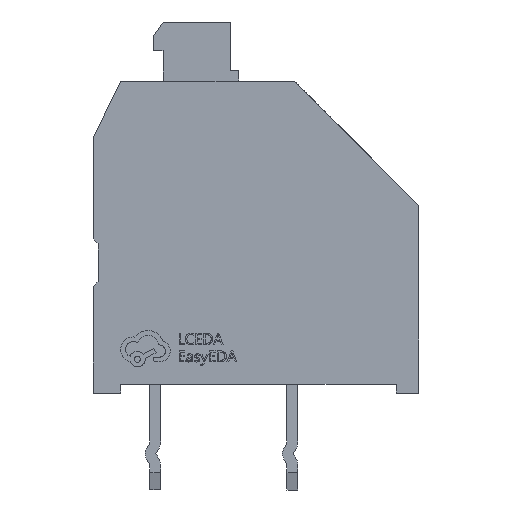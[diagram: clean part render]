
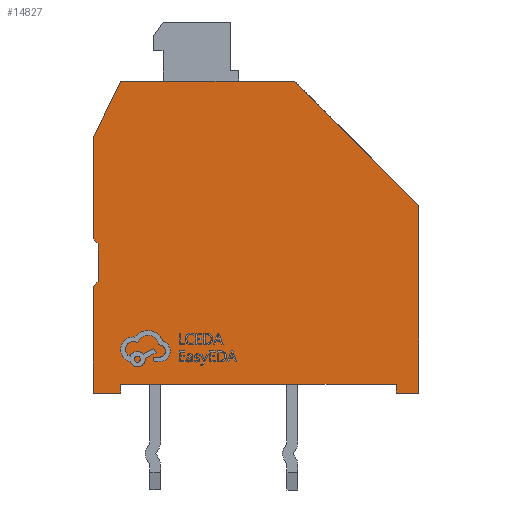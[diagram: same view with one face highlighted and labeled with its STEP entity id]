
A CAD part, left-side view. The second image highlights one B-rep face of the part: STEP entity #14827.
In plain terms, the highlighted planar face has unit normal (-1, 0, 0).
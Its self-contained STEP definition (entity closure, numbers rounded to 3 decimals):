
#696 = ORIENTED_EDGE ( 'NONE', *, *, #37958, .F. ) ;
#765 = CARTESIAN_POINT ( 'NONE',  ( -24.014, 1.918, 0. ) ) ;
#1316 = VECTOR ( 'NONE', #35596, 1000. ) ;
#2245 = EDGE_CURVE ( 'NONE', #42690, #34831, #41422, .T. ) ;
#2260 = VERTEX_POINT ( 'NONE', #5443 ) ;
#2502 = VERTEX_POINT ( 'NONE', #34626 ) ;
#3571 = CARTESIAN_POINT ( 'NONE',  ( -24.014, 6.549, 1.92 ) ) ;
#4002 = LINE ( 'NONE', #3571, #28269 ) ;
#4122 = VECTOR ( 'NONE', #31254, 1000. ) ;
#5443 = CARTESIAN_POINT ( 'NONE',  ( -24.014, 6.366, 0.332 ) ) ;
#5858 = CARTESIAN_POINT ( 'NONE',  ( -24.014, 5.533, -3.813 ) ) ;
#6054 = LINE ( 'NONE', #35102, #38085 ) ;
#6401 = VERTEX_POINT ( 'NONE', #22345 ) ;
#6672 = DIRECTION ( 'NONE',  ( 0., 1., 0. ) ) ;
#7127 = LINE ( 'NONE', #33513, #31807 ) ;
#7606 = ORIENTED_EDGE ( 'NONE', *, *, #2245, .F. ) ;
#8007 = DIRECTION ( 'NONE',  ( 0., 0., -1. ) ) ;
#8103 = ORIENTED_EDGE ( 'NONE', *, *, #26441, .F. ) ;
#8170 = EDGE_CURVE ( 'NONE', #17045, #31608, #40246, .T. ) ;
#8296 = VECTOR ( 'NONE', #39312, 1000. ) ;
#9031 = VERTEX_POINT ( 'NONE', #37182 ) ;
#9635 = LINE ( 'NONE', #26834, #24236 ) ;
#10945 = VECTOR ( 'NONE', #6672, 1000. ) ;
#11427 = ORIENTED_EDGE ( 'NONE', *, *, #27126, .F. ) ;
#11950 = VERTEX_POINT ( 'NONE', #24344 ) ;
#13377 = VECTOR ( 'NONE', #16511, 1000. ) ;
#14042 = CARTESIAN_POINT ( 'NONE',  ( -24.014, 5.533, 7.787 ) ) ;
#14062 = EDGE_CURVE ( 'NONE', #11950, #2260, #7127, .T. ) ;
#14068 = CARTESIAN_POINT ( 'NONE',  ( -24.014, -4.711, -3.813 ) ) ;
#14284 = EDGE_CURVE ( 'NONE', #33366, #11950, #9635, .T. ) ;
#14827 = ADVANCED_FACE ( 'NONE', ( #42898 ), #21942, .T. ) ;
#14854 = LINE ( 'NONE', #21292, #1316 ) ;
#15793 = CARTESIAN_POINT ( 'NONE',  ( -24.014, 5.533, -3.48 ) ) ;
#15834 = CARTESIAN_POINT ( 'NONE',  ( -24.014, 6.366, 0.332 ) ) ;
#15979 = EDGE_CURVE ( 'NONE', #34831, #42165, #4002, .T. ) ;
#16093 = ORIENTED_EDGE ( 'NONE', *, *, #46952, .F. ) ;
#16138 = VERTEX_POINT ( 'NONE', #5858 ) ;
#16511 = DIRECTION ( 'NONE',  ( 0., -0.434, 0.901 ) ) ;
#16994 = DIRECTION ( 'NONE',  ( 0., 1., 0. ) ) ;
#17045 = VERTEX_POINT ( 'NONE', #18451 ) ;
#17519 = LINE ( 'NONE', #18240, #40758 ) ;
#18041 = DIRECTION ( 'NONE',  ( 0., 0., 1. ) ) ;
#18240 = CARTESIAN_POINT ( 'NONE',  ( -24.014, -5.551, 3.162 ) ) ;
#18451 = CARTESIAN_POINT ( 'NONE',  ( -24.014, -4.711, -3.48 ) ) ;
#19417 = CARTESIAN_POINT ( 'NONE',  ( -24.014, 6.549, 5.677 ) ) ;
#19824 = VECTOR ( 'NONE', #43927, 1000. ) ;
#20848 = VECTOR ( 'NONE', #45156, 1000. ) ;
#21292 = CARTESIAN_POINT ( 'NONE',  ( -24.014, -0.926, 7.787 ) ) ;
#21581 = CARTESIAN_POINT ( 'NONE',  ( -24.014, -5.551, 3.162 ) ) ;
#21942 = PLANE ( 'NONE',  #37986 ) ;
#22345 = CARTESIAN_POINT ( 'NONE',  ( -24.014, -5.551, -3.813 ) ) ;
#22689 = EDGE_CURVE ( 'NONE', #32194, #6401, #17519, .T. ) ;
#23304 = CARTESIAN_POINT ( 'NONE',  ( -24.014, 5.533, -3.48 ) ) ;
#23310 = DIRECTION ( 'NONE',  ( 0., 0., 1. ) ) ;
#23503 = ORIENTED_EDGE ( 'NONE', *, *, #15979, .F. ) ;
#23693 = LINE ( 'NONE', #15834, #4122 ) ;
#24035 = DIRECTION ( 'NONE',  ( 0., 0.707, 0.707 ) ) ;
#24236 = VECTOR ( 'NONE', #23310, 1000. ) ;
#24344 = CARTESIAN_POINT ( 'NONE',  ( -24.014, 6.549, 0.15 ) ) ;
#26225 = DIRECTION ( 'NONE',  ( 0., 0., -1. ) ) ;
#26441 = EDGE_CURVE ( 'NONE', #6401, #34936, #45535, .T. ) ;
#26536 = LINE ( 'NONE', #19417, #13377 ) ;
#26708 = CARTESIAN_POINT ( 'NONE',  ( -24.014, 6.366, 1.737 ) ) ;
#26834 = CARTESIAN_POINT ( 'NONE',  ( -24.014, 6.549, -3.813 ) ) ;
#27097 = CARTESIAN_POINT ( 'NONE',  ( -24.014, 6.366, 1.737 ) ) ;
#27126 = EDGE_CURVE ( 'NONE', #42165, #9031, #26536, .T. ) ;
#28269 = VECTOR ( 'NONE', #18041, 1000. ) ;
#30787 = ORIENTED_EDGE ( 'NONE', *, *, #33470, .F. ) ;
#30813 = EDGE_CURVE ( 'NONE', #34936, #17045, #6054, .T. ) ;
#30909 = ORIENTED_EDGE ( 'NONE', *, *, #30813, .F. ) ;
#31254 = DIRECTION ( 'NONE',  ( 0., 0., 1. ) ) ;
#31608 = VERTEX_POINT ( 'NONE', #15793 ) ;
#31807 = VECTOR ( 'NONE', #32798, 1000. ) ;
#32194 = VERTEX_POINT ( 'NONE', #21581 ) ;
#32594 = LINE ( 'NONE', #14042, #8296 ) ;
#32798 = DIRECTION ( 'NONE',  ( 0., -0.707, 0.707 ) ) ;
#33366 = VERTEX_POINT ( 'NONE', #39212 ) ;
#33470 = EDGE_CURVE ( 'NONE', #16138, #33366, #46770, .T. ) ;
#33513 = CARTESIAN_POINT ( 'NONE',  ( -24.014, 6.549, 0.15 ) ) ;
#33927 = ORIENTED_EDGE ( 'NONE', *, *, #22689, .F. ) ;
#34442 = VECTOR ( 'NONE', #24035, 1000. ) ;
#34626 = CARTESIAN_POINT ( 'NONE',  ( -24.014, -0.926, 7.787 ) ) ;
#34831 = VERTEX_POINT ( 'NONE', #45712 ) ;
#34851 = CARTESIAN_POINT ( 'NONE',  ( -24.014, -5.551, -3.813 ) ) ;
#34936 = VERTEX_POINT ( 'NONE', #14068 ) ;
#35102 = CARTESIAN_POINT ( 'NONE',  ( -24.014, -4.711, -3.813 ) ) ;
#35596 = DIRECTION ( 'NONE',  ( 0., -0.707, -0.707 ) ) ;
#36151 = ORIENTED_EDGE ( 'NONE', *, *, #14062, .F. ) ;
#36635 = ORIENTED_EDGE ( 'NONE', *, *, #40314, .F. ) ;
#37182 = CARTESIAN_POINT ( 'NONE',  ( -24.014, 5.533, 7.787 ) ) ;
#37958 = EDGE_CURVE ( 'NONE', #2502, #32194, #14854, .T. ) ;
#37986 = AXIS2_PLACEMENT_3D ( 'NONE', #765, #44749, #26225 ) ;
#38085 = VECTOR ( 'NONE', #38474, 1000. ) ;
#38474 = DIRECTION ( 'NONE',  ( 0., 0., 1. ) ) ;
#39212 = CARTESIAN_POINT ( 'NONE',  ( -24.014, 6.549, -3.813 ) ) ;
#39312 = DIRECTION ( 'NONE',  ( 0., -1., 0. ) ) ;
#39674 = CARTESIAN_POINT ( 'NONE',  ( -24.014, 5.533, -3.813 ) ) ;
#39927 = VECTOR ( 'NONE', #16994, 1000. ) ;
#40246 = LINE ( 'NONE', #43538, #10945 ) ;
#40314 = EDGE_CURVE ( 'NONE', #2260, #42690, #23693, .T. ) ;
#40699 = ORIENTED_EDGE ( 'NONE', *, *, #44793, .F. ) ;
#40758 = VECTOR ( 'NONE', #8007, 1000. ) ;
#41196 = ORIENTED_EDGE ( 'NONE', *, *, #14284, .F. ) ;
#41389 = LINE ( 'NONE', #23304, #20848 ) ;
#41422 = LINE ( 'NONE', #27097, #34442 ) ;
#42165 = VERTEX_POINT ( 'NONE', #46433 ) ;
#42690 = VERTEX_POINT ( 'NONE', #26708 ) ;
#42776 = ORIENTED_EDGE ( 'NONE', *, *, #8170, .F. ) ;
#42898 = FACE_OUTER_BOUND ( 'NONE', #46623, .T. ) ;
#43538 = CARTESIAN_POINT ( 'NONE',  ( -24.014, -4.711, -3.48 ) ) ;
#43927 = DIRECTION ( 'NONE',  ( 0., 1., 0. ) ) ;
#44749 = DIRECTION ( 'NONE',  ( -1., 0., 0. ) ) ;
#44793 = EDGE_CURVE ( 'NONE', #9031, #2502, #32594, .T. ) ;
#45156 = DIRECTION ( 'NONE',  ( 0., 0., -1. ) ) ;
#45535 = LINE ( 'NONE', #34851, #39927 ) ;
#45712 = CARTESIAN_POINT ( 'NONE',  ( -24.014, 6.549, 1.92 ) ) ;
#46433 = CARTESIAN_POINT ( 'NONE',  ( -24.014, 6.549, 5.677 ) ) ;
#46623 = EDGE_LOOP ( 'NONE', ( #696, #40699, #11427, #23503, #7606, #36635, #36151, #41196, #30787, #16093, #42776, #30909, #8103, #33927 ) ) ;
#46770 = LINE ( 'NONE', #39674, #19824 ) ;
#46952 = EDGE_CURVE ( 'NONE', #31608, #16138, #41389, .T. ) ;
